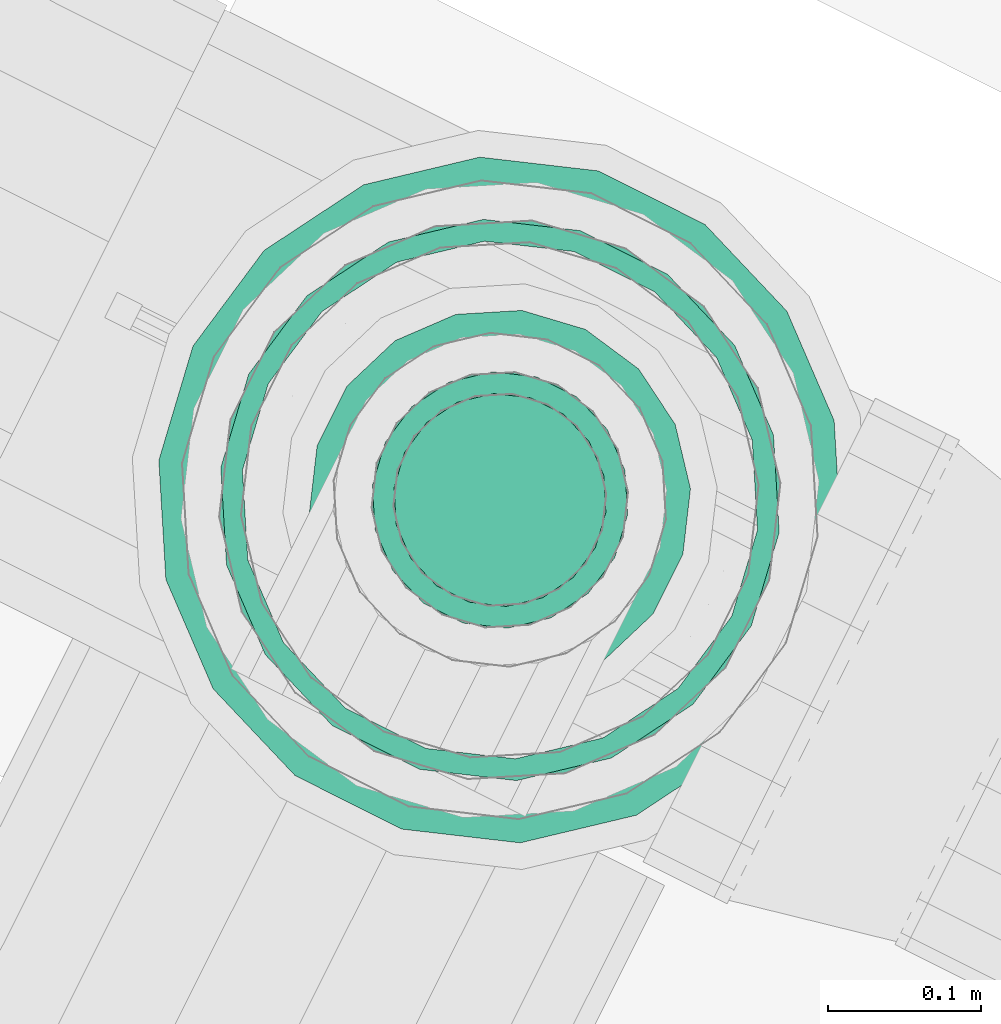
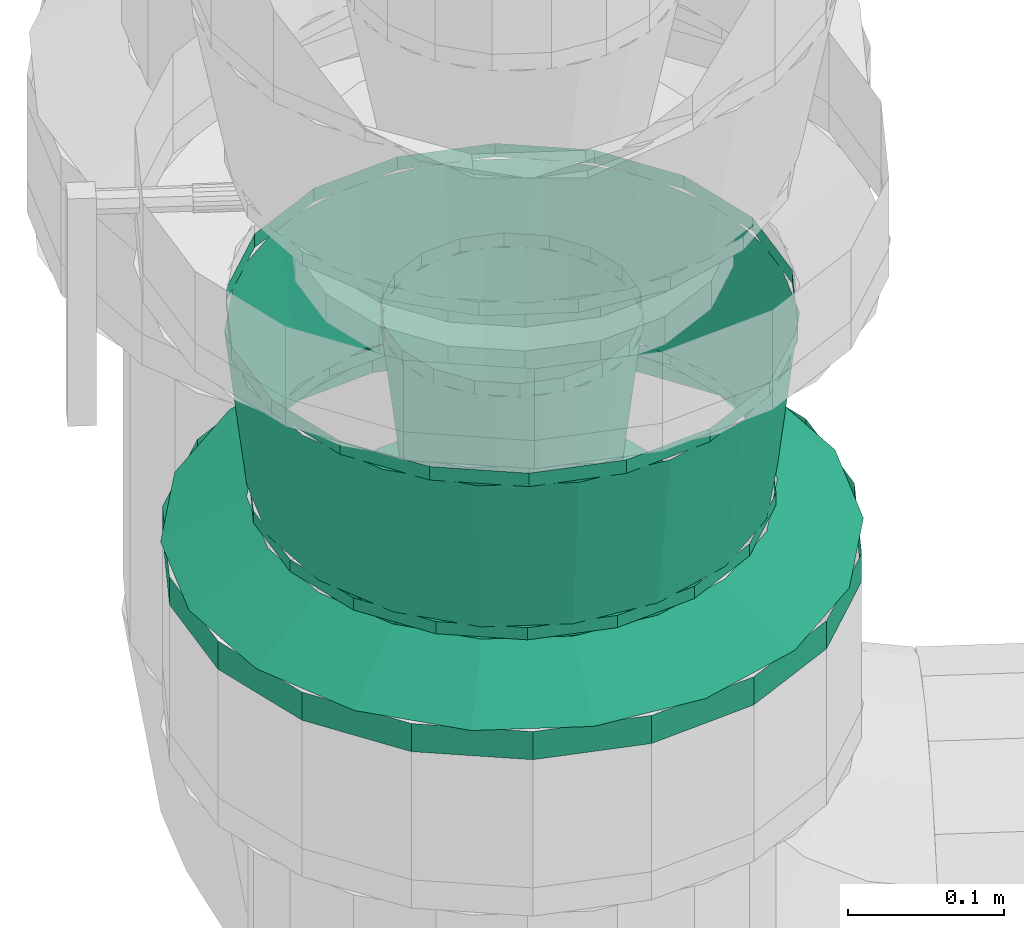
# One storey, part 118 of 152: 2 flow fittings.
"""IFC2X3 building model written with IfcOpenShell, lengths in metres."""

from ifc_helpers import new_model, si_unit, derived_unit, direction, frame, origin, place, context, subcontext, project, spatial, face_set, surface_model, source, transform, mapped, material, type_object, type_shapes, element, save


model = new_model("IFC2X3")

# Units and contexts
model_context = context("Model", 3, precision=5.2338327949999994e-05, world=origin(), true_north=direction((0.0, 1.0)))
body_context = subcontext(model_context, "Body", "Model", "MODEL_VIEW")
ifc_project = project(units=[si_unit("LENGTHUNIT", "METRE"), si_unit("AREAUNIT", "SQUARE_METRE"), si_unit("VOLUMEUNIT", "CUBIC_METRE"), si_unit("MASSUNIT", "GRAM", prefix="KILO"), si_unit("PLANEANGLEUNIT", "RADIAN"), derived_unit("THERMALTRANSMITTANCEUNIT", [(si_unit("MASSUNIT", "GRAM", prefix="KILO"), 1), (si_unit("THERMODYNAMICTEMPERATUREUNIT", "KELVIN"), -1), (si_unit("TIMEUNIT", "SECOND"), -3)])], contexts=[model_context])

# Site, building, storey
site_placement = place(None, frame((0.0, 0.0, 0.0), z_axis=(0.0, 0.0, 1.0), x_axis=(0.8939966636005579, -0.4480736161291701, 0.0)))
site = spatial("IfcSite", under=ifc_project, at=site_placement, Name="Default", CompositionType="ELEMENT")
building_placement = place(site_placement, origin())
building = spatial("IfcBuilding", under=site, at=building_placement, CompositionType="ELEMENT")
storey_placement = place(building_placement, frame((0.0, 0.0, 2.7499999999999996)))
storey = spatial("IfcBuildingStorey", under=building, at=storey_placement, Name="1. Obergeschoss", CompositionType="ELEMENT", Elevation=2.7499999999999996)

# Flow fittings
ifc_material = material(Name="IfcSurfaceStyle #9317")
distribution_element_type_1 = type_object("IfcDistributionElementType", Name="Flansch 234258:Flansch 234258", material=ifc_material)
shared_shape_1 = source(origin(), body_context, "Body", "SurfaceModel", [
    surface_model("IfcFaceBasedSurfaceModel", [(9.625770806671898, 7.202208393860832, 4.27507198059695), (9.668523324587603, 7.209746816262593, 4.27507198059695), (9.668523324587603, 7.209746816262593, 4.297071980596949), (9.625770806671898, 7.202208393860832, 4.297071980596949), (9.706119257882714, 7.231452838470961, 4.27507198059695), (9.706119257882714, 7.231452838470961, 4.297071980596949), (9.734023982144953, 7.264708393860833, 4.27507198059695), (9.734023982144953, 7.264708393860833, 4.297071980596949), (9.748871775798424, 7.305502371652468, 4.27507198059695), (9.748871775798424, 7.305502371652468, 4.297071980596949), (9.748871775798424, 7.3489144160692, 4.27507198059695), (9.748871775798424, 7.3489144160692, 4.297071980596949), (9.734023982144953, 7.3897083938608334, 4.27507198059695), (9.734023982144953, 7.3897083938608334, 4.297071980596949), (9.706119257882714, 7.422963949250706, 4.27507198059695), (9.706119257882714, 7.422963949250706, 4.297071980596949), (9.668523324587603, 7.4446699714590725, 4.27507198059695), (9.668523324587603, 7.4446699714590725, 4.297071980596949), (9.625770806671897, 7.452208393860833, 4.27507198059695), (9.625770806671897, 7.452208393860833, 4.297071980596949), (9.583018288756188, 7.444669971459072, 4.27507198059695), (9.583018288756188, 7.444669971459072, 4.297071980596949), (9.54542235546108, 7.422963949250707, 4.27507198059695), (9.54542235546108, 7.422963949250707, 4.297071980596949), (9.517517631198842, 7.3897083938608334, 4.27507198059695), (9.517517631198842, 7.3897083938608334, 4.297071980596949), (9.50266983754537, 7.348914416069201, 4.27507198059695), (9.50266983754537, 7.348914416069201, 4.297071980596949), (9.50266983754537, 7.305502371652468, 4.27507198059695), (9.50266983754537, 7.305502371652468, 4.297071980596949), (9.517517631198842, 7.264708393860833, 4.27507198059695), (9.517517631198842, 7.264708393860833, 4.297071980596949), (9.54542235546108, 7.231452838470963, 4.27507198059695), (9.54542235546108, 7.231452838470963, 4.297071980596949), (9.583018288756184, 7.209746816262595, 4.27507198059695), (9.583018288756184, 7.209746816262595, 4.297071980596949), (9.625770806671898, 7.3272083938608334, 4.297071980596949), (9.703770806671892, 7.3272083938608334, 4.297071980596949), (9.699066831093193, 7.353885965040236, 4.297071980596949), (9.69140833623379, 7.351098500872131, 4.33007198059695), (9.695620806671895, 7.327208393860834, 4.33007198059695), (9.685522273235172, 7.377345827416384, 4.297071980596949), (9.679279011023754, 7.372107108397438, 4.33007198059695), (9.664770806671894, 7.394758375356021, 4.297071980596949), (9.660695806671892, 7.387700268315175, 4.33007198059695), (9.639315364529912, 7.404023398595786, 4.297071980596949), (9.637900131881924, 7.395997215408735, 4.33007198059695), (9.612226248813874, 7.404023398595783, 4.297071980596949), (9.613641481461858, 7.395997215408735, 4.33007198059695), (9.586770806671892, 7.394758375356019, 4.297071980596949), (9.590845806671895, 7.387700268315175, 4.33007198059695), (9.566019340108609, 7.377345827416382, 4.297071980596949), (9.572262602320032, 7.372107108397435, 4.33007198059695), (9.552474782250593, 7.3538859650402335, 4.297071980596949), (9.56013327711, 7.351098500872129, 4.33007198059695), (9.547770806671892, 7.327208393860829, 4.297071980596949), (9.555920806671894, 7.327208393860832, 4.33007198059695), (9.552474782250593, 7.300530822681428, 4.297071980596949), (9.560133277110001, 7.3033182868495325, 4.33007198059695), (9.566019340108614, 7.277070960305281, 4.297071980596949), (9.572262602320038, 7.282309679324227, 4.33007198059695), (9.586770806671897, 7.259658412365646, 4.297071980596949), (9.590845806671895, 7.266716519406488, 4.33007198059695), (9.612226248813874, 7.250393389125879, 4.297071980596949), (9.61364148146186, 7.258419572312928, 4.33007198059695), (9.639315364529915, 7.250393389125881, 4.297071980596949), (9.63790013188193, 7.25841957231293, 4.33007198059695), (9.664770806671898, 7.2596584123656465, 4.297071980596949), (9.660695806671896, 7.266716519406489, 4.33007198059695), (9.685522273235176, 7.277070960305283, 4.297071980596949), (9.679279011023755, 7.2823096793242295, 4.33007198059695), (9.699066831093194, 7.3005308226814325, 4.297071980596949), (9.691408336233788, 7.303318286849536, 4.33007198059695), (9.625770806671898, 7.102208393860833, 4.27507198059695), (9.702725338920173, 7.115777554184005, 4.27507198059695), (9.702725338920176, 7.115777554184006, 4.297071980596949), (9.6257708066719, 7.102208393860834, 4.297071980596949), (9.770398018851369, 7.154848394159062, 4.27507198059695), (9.77039801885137, 7.154848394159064, 4.297071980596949), (9.8206265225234, 7.214708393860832, 4.27507198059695), (9.820626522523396, 7.214708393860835, 4.297071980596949), (9.847352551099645, 7.288137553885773, 4.27507198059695), (9.84735255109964, 7.288137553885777, 4.297071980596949), (9.847352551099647, 7.3662792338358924, 4.27507198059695), (9.847352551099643, 7.366279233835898, 4.297071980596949), (9.820626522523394, 7.439708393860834, 4.27507198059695), (9.82062652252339, 7.439708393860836, 4.297071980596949), (9.770398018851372, 7.499568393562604, 4.27507198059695), (9.770398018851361, 7.4995683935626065, 4.297071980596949), (9.702725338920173, 7.538639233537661, 4.27507198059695), (9.702725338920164, 7.538639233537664, 4.297071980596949), (9.625770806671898, 7.552208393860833, 4.27507198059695), (9.625770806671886, 7.552208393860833, 4.297071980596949), (9.548816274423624, 7.538639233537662, 4.27507198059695), (9.548816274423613, 7.53863923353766, 4.297071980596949), (9.481143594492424, 7.499568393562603, 4.27507198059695), (9.481143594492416, 7.499568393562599, 4.297071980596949), (9.430915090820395, 7.439708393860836, 4.27507198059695), (9.43091509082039, 7.439708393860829, 4.297071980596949), (9.404189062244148, 7.366279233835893, 4.27507198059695), (9.404189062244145, 7.366279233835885, 4.297071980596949), (9.404189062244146, 7.2881375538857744, 4.27507198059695), (9.404189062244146, 7.288137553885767, 4.297071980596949), (9.430915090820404, 7.2147083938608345, 4.27507198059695), (9.430915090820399, 7.2147083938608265, 4.297071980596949), (9.481143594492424, 7.154848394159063, 4.27507198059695), (9.481143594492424, 7.154848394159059, 4.297071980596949), (9.548816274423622, 7.115777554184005, 4.27507198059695), (9.548816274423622, 7.115777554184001, 4.297071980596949), (9.850770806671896, 7.327208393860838, 4.297071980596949), (9.837201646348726, 7.404162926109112, 4.297071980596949), (9.785377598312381, 7.3853005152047, 4.330071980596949), (9.795620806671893, 7.327208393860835, 4.33007198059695), (9.79813080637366, 7.471835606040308, 4.297071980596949), (9.75588345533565, 7.436385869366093, 4.33007198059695), (9.738270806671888, 7.522064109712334, 4.297071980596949), (9.710695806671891, 7.474302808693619, 4.33007198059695), (9.664841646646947, 7.548790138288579, 4.297071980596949), (9.65526494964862, 7.494477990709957, 4.330071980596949), (9.58669996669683, 7.548790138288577, 4.297071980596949), (9.596276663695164, 7.494477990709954, 4.33007198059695), (9.513270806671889, 7.522064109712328, 4.297071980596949), (9.540845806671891, 7.474302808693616, 4.33007198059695), (9.453410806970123, 7.471835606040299, 4.297071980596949), (9.495658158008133, 7.436385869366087, 4.330071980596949), (9.41433996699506, 7.404162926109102, 4.29707198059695), (9.46616401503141, 7.385300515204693, 4.33007198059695), (9.400770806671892, 7.327208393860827, 4.297071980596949), (9.455920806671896, 7.327208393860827, 4.330071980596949), (9.414339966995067, 7.250253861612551, 4.297071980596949), (9.466164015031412, 7.269116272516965, 4.330071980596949), (9.45341080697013, 7.182581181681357, 4.297071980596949), (9.495658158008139, 7.21803091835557, 4.330071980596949), (9.5132708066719, 7.1323526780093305, 4.29707198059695), (9.540845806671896, 7.180113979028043, 4.33007198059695), (9.586699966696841, 7.105626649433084, 4.297071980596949), (9.59627666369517, 7.159938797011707, 4.33007198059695), (9.664841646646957, 7.105626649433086, 4.297071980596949), (9.655264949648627, 7.15993879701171, 4.33007198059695), (9.738270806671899, 7.132352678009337, 4.29707198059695), (9.710695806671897, 7.1801139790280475, 4.33007198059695), (9.798130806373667, 7.182581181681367, 4.297071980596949), (9.755883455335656, 7.218030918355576, 4.330071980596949), (9.837201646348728, 7.250253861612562, 4.297071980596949), (9.785377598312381, 7.269116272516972, 4.330071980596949)], [face_set([[[0, 1, 2, 3]], [[1, 4, 5, 2]], [[4, 6, 7, 5]], [[6, 8, 9, 7]], [[8, 10, 11, 9]], [[10, 12, 13, 11]], [[12, 14, 15, 13]], [[14, 16, 17, 15]], [[16, 18, 19, 17]], [[18, 20, 21, 19]], [[20, 22, 23, 21]], [[22, 24, 25, 23]], [[24, 26, 27, 25]], [[26, 28, 29, 27]], [[28, 30, 31, 29]], [[30, 32, 33, 31]], [[32, 34, 35, 33]], [[34, 0, 3, 35]], [[36, 35, 3]], [[36, 33, 35]], [[36, 31, 33]], [[36, 29, 31]], [[36, 27, 29]], [[36, 25, 27]], [[36, 23, 25]], [[36, 21, 23]], [[36, 19, 21]], [[36, 17, 19]], [[36, 15, 17]], [[36, 13, 15]], [[36, 11, 13]], [[36, 9, 11]], [[36, 7, 9]], [[36, 5, 7]], [[36, 2, 5]], [[36, 3, 2]], [[37, 38, 39, 40]], [[38, 41, 42, 39]], [[41, 43, 44, 42]], [[43, 45, 46, 44]], [[45, 47, 48, 46]], [[47, 49, 50, 48]], [[49, 51, 52, 50]], [[51, 53, 54, 52]], [[53, 55, 56, 54]], [[55, 57, 58, 56]], [[57, 59, 60, 58]], [[59, 61, 62, 60]], [[61, 63, 64, 62]], [[63, 65, 66, 64]], [[65, 67, 68, 66]], [[67, 69, 70, 68]], [[69, 71, 72, 70]], [[71, 37, 40, 72]], [[73, 74, 75, 76]], [[74, 77, 78, 75]], [[77, 79, 80, 78]], [[79, 81, 82, 80]], [[81, 83, 84, 82]], [[83, 85, 86, 84]], [[85, 87, 88, 86]], [[87, 89, 90, 88]], [[89, 91, 92, 90]], [[91, 93, 94, 92]], [[93, 95, 96, 94]], [[95, 97, 98, 96]], [[97, 99, 100, 98]], [[99, 101, 102, 100]], [[101, 103, 104, 102]], [[103, 105, 106, 104]], [[105, 107, 108, 106]], [[107, 73, 76, 108]], [[109, 110, 111, 112]], [[110, 113, 114, 111]], [[113, 115, 116, 114]], [[115, 117, 118, 116]], [[117, 119, 120, 118]], [[119, 121, 122, 120]], [[121, 123, 124, 122]], [[123, 125, 126, 124]], [[125, 127, 128, 126]], [[127, 129, 130, 128]], [[129, 131, 132, 130]], [[131, 133, 134, 132]], [[133, 135, 136, 134]], [[135, 137, 138, 136]], [[137, 139, 140, 138]], [[139, 141, 142, 140]], [[141, 143, 144, 142]], [[143, 109, 112, 144]]])]),
])
type_shapes(distribution_element_type_1, [shared_shape_1])
flow_fitting_1_placement = place(storey_placement, frame((0.0, 0.0, -2.7499999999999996)))
element("IfcFlowFitting", 1, at=flow_fitting_1_placement, inside=storey, type_object=distribution_element_type_1, material=ifc_material, Name="Flansch", ObjectType="Flansch", context=body_context, shape_type="MappedRepresentation", body=[
    mapped(shared_shape_1, transform((0.0, 0.0, 0.0), scale=1.0)),
])
distribution_element_type_2 = type_object("IfcDistributionElementType", Name="Übergangsstück 234729:Übergangsstück 234729", material=ifc_material)
shared_shape_2 = source(origin(), body_context, "Body", "SurfaceModel", [
    surface_model("IfcFaceBasedSurfaceModel", [(9.625770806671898, 7.397058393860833, 4.3300719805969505), (9.601880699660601, 7.392845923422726, 4.3300719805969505), (9.601880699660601, 7.392845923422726, 4.3396011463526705), (9.625770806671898, 7.397058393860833, 4.3396011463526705), (9.580872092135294, 7.38071659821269, 4.3300719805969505), (9.580872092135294, 7.38071659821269, 4.3396011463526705), (9.565278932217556, 7.36213339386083, 4.3300719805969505), (9.565278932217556, 7.36213339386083, 4.3396011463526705), (9.556981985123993, 7.339337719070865, 4.3300719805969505), (9.556981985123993, 7.339337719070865, 4.3396011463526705), (9.556981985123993, 7.315079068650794, 4.3300719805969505), (9.556981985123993, 7.315079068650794, 4.3396011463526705), (9.565278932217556, 7.29228339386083, 4.3300719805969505), (9.565278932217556, 7.29228339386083, 4.3396011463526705), (9.580872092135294, 7.273700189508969, 4.3300719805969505), (9.580872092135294, 7.273700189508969, 4.3396011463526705), (9.601880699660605, 7.261570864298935, 4.3300719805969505), (9.601880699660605, 7.261570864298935, 4.3396011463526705), (9.625770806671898, 7.257358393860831, 4.3300719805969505), (9.625770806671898, 7.257358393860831, 4.3396011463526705), (9.649660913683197, 7.261570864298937, 4.33007198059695), (9.6496609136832, 7.261570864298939, 4.3396011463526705), (9.670669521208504, 7.273700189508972, 4.3300719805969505), (9.670669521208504, 7.273700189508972, 4.3396011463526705), (9.68626268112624, 7.292283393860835, 4.3300719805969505), (9.68626268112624, 7.292283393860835, 4.3396011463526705), (9.694559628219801, 7.3150790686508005, 4.3300719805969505), (9.694559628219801, 7.3150790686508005, 4.3396011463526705), (9.6945596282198, 7.339337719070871, 4.3300719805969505), (9.6945596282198, 7.339337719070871, 4.3396011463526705), (9.686262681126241, 7.362133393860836, 4.3300719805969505), (9.686262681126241, 7.362133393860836, 4.3396011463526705), (9.670669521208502, 7.380716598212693, 4.3300719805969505), (9.670669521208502, 7.380716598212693, 4.3396011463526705), (9.649660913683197, 7.392845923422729, 4.3300719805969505), (9.649660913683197, 7.392845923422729, 4.3396011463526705), (9.5559208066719, 7.327208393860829, 4.3396011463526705), (9.560133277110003, 7.303318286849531, 4.3396011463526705), (9.546695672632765, 7.298427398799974, 4.459612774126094), (9.541620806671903, 7.327208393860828, 4.459612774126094), (9.57226260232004, 7.282309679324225, 4.3396011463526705), (9.561308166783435, 7.273117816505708, 4.459612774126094), (9.590845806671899, 7.2667165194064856, 4.3396011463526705), (9.583695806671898, 7.254332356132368, 4.459612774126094), (9.613641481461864, 7.258419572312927, 4.3396011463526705), (9.611158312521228, 7.244336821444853, 4.459612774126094), (9.637900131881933, 7.25841957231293, 4.3396011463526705), (9.640383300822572, 7.244336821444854, 4.459612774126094), (9.6606958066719, 7.266716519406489, 4.3396011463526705), (9.667845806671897, 7.254332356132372, 4.459612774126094), (9.67927901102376, 7.282309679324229, 4.3396011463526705), (9.69023344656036, 7.273117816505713, 4.459612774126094), (9.691408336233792, 7.303318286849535, 4.3396011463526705), (9.704845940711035, 7.29842739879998, 4.459612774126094), (9.695620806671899, 7.327208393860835, 4.3396011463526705), (9.709920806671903, 7.327208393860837, 4.459612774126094), (9.691408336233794, 7.351098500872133, 4.3396011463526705), (9.704845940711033, 7.355989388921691, 4.459612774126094), (9.67927901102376, 7.372107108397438, 4.3396011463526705), (9.690233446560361, 7.381298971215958, 4.459612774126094), (9.660695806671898, 7.387700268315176, 4.3396011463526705), (9.667845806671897, 7.400084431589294, 4.459612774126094), (9.637900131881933, 7.395997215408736, 4.3396011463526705), (9.64038330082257, 7.410079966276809, 4.459612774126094), (9.613641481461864, 7.395997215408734, 4.3396011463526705), (9.611158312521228, 7.4100799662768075, 4.459612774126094), (9.590845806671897, 7.387700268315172, 4.3396011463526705), (9.5836958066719, 7.400084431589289, 4.459612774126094), (9.57226260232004, 7.372107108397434, 4.3396011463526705), (9.561308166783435, 7.381298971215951, 4.459612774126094), (9.560133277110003, 7.351098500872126, 4.3396011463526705), (9.546695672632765, 7.355989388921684, 4.459612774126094), (9.6257708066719, 7.411358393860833, 4.459612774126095), (9.596989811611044, 7.406283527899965, 4.459612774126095), (9.596989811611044, 7.406283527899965, 4.47007198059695), (9.6257708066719, 7.411358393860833, 4.47007198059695), (9.571680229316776, 7.391671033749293, 4.459612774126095), (9.571680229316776, 7.391671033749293, 4.47007198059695), (9.55289476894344, 7.36928339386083, 4.459612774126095), (9.55289476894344, 7.36928339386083, 4.47007198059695), (9.542899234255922, 7.3418208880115, 4.459612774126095), (9.542899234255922, 7.3418208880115, 4.47007198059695), (9.542899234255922, 7.312595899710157, 4.459612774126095), (9.542899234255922, 7.312595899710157, 4.47007198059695), (9.55289476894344, 7.285133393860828, 4.459612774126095), (9.55289476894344, 7.285133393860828, 4.47007198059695), (9.571680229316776, 7.262745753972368, 4.459612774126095), (9.571680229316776, 7.262745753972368, 4.47007198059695), (9.596989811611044, 7.248133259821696, 4.459612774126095), (9.596989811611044, 7.248133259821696, 4.47007198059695), (9.625770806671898, 7.243058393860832, 4.459612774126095), (9.625770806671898, 7.243058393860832, 4.47007198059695), (9.654551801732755, 7.2481332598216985, 4.459612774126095), (9.654551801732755, 7.2481332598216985, 4.47007198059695), (9.67986138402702, 7.262745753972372, 4.459612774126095), (9.67986138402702, 7.262745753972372, 4.47007198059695), (9.69864684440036, 7.285133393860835, 4.459612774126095), (9.69864684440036, 7.285133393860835, 4.47007198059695), (9.708642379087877, 7.312595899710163, 4.459612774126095), (9.708642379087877, 7.312595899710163, 4.47007198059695), (9.708642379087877, 7.341820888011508, 4.459612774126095), (9.708642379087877, 7.341820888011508, 4.47007198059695), (9.698646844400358, 7.369283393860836, 4.459612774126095), (9.698646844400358, 7.369283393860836, 4.47007198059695), (9.67986138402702, 7.3916710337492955, 4.459612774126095), (9.67986138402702, 7.3916710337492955, 4.47007198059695), (9.654551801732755, 7.406283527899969, 4.459612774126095), (9.654551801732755, 7.406283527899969, 4.47007198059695), (9.625770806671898, 7.497058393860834, 4.3300719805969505), (9.567678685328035, 7.4868151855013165, 4.3300719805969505), (9.567678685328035, 7.4868151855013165, 4.3396011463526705), (9.625770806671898, 7.497058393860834, 4.3396011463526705), (9.516593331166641, 7.457321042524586, 4.3300719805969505), (9.516593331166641, 7.457321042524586, 4.3396011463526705), (9.478676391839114, 7.4121333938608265, 4.3300719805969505), (9.478676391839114, 7.4121333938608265, 4.3396011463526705), (9.458501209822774, 7.356702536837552, 4.3300719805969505), (9.458501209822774, 7.356702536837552, 4.3396011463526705), (9.458501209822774, 7.297714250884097, 4.3300719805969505), (9.458501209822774, 7.297714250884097, 4.3396011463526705), (9.478676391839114, 7.242283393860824, 4.3300719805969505), (9.478676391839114, 7.242283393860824, 4.3396011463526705), (9.516593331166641, 7.197095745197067, 4.3300719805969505), (9.516593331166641, 7.197095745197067, 4.3396011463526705), (9.567678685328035, 7.1676016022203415, 4.3300719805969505), (9.567678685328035, 7.1676016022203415, 4.3396011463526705), (9.625770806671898, 7.1573583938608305, 4.3300719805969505), (9.625770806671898, 7.1573583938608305, 4.3396011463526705), (9.683862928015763, 7.167601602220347, 4.3300719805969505), (9.683862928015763, 7.167601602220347, 4.3396011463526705), (9.73494828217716, 7.1970957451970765, 4.3300719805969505), (9.73494828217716, 7.1970957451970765, 4.3396011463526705), (9.772865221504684, 7.242283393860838, 4.3300719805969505), (9.772865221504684, 7.242283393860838, 4.3396011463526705), (9.79304040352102, 7.29771425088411, 4.3300719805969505), (9.79304040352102, 7.29771425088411, 4.3396011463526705), (9.793040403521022, 7.356702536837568, 4.3300719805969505), (9.793040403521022, 7.356702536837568, 4.3396011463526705), (9.772865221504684, 7.412133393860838, 4.3300719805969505), (9.772865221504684, 7.412133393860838, 4.3396011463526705), (9.734948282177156, 7.457321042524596, 4.3300719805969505), (9.734948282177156, 7.457321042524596, 4.3396011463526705), (9.683862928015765, 7.486815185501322, 4.3300719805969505), (9.683862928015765, 7.486815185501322, 4.3396011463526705), (9.4559208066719, 7.327208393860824, 4.3396011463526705), (9.466164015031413, 7.2691162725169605, 4.3396011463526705), (9.452726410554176, 7.264225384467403, 4.459612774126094), (9.4416208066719, 7.327208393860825, 4.459612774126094), (9.495658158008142, 7.218030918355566, 4.3396011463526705), (9.48470372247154, 7.208839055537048, 4.459612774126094), (9.540845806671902, 7.180113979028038, 4.3396011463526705), (9.5336958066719, 7.167729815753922, 4.459612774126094), (9.596276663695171, 7.159938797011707, 4.3396011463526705), (9.593793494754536, 7.145856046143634, 4.459612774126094), (9.655264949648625, 7.159938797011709, 4.3396011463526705), (9.657748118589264, 7.145856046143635, 4.459612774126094), (9.710695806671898, 7.180113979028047, 4.3396011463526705), (9.717845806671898, 7.16772981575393, 4.459612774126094), (9.755883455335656, 7.218030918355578, 4.3396011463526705), (9.766837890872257, 7.20883905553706, 4.459612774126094), (9.785377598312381, 7.269116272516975, 4.3396011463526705), (9.798815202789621, 7.264225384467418, 4.459612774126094), (9.795620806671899, 7.327208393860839, 4.3396011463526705), (9.809920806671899, 7.32720839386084, 4.459612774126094), (9.785377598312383, 7.385300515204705, 4.3396011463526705), (9.798815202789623, 7.3901914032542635, 4.459612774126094), (9.755883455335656, 7.436385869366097, 4.3396011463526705), (9.766837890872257, 7.4455777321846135, 4.459612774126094), (9.710695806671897, 7.474302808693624, 4.3396011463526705), (9.717845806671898, 7.486686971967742, 4.459612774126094), (9.655264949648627, 7.494477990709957, 4.3396011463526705), (9.657748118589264, 7.508560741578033, 4.459612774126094), (9.596276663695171, 7.494477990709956, 4.3396011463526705), (9.593793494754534, 7.508560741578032, 4.459612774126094), (9.540845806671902, 7.4743028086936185, 4.3396011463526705), (9.533695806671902, 7.486686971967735, 4.459612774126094), (9.495658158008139, 7.436385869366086, 4.3396011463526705), (9.48470372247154, 7.445577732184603, 4.459612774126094), (9.466164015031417, 7.38530051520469, 4.3396011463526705), (9.452726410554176, 7.390191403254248, 4.459612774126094), (9.625770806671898, 7.511358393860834, 4.459612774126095), (9.562787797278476, 7.500252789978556, 4.459612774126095), (9.562787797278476, 7.500252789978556, 4.47007198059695), (9.625770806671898, 7.511358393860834, 4.47007198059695), (9.507401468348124, 7.4682754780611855, 4.459612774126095), (9.507401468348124, 7.4682754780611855, 4.47007198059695), (9.466292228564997, 7.419283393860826, 4.459612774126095), (9.466292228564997, 7.419283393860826, 4.47007198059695), (9.444418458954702, 7.359185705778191, 4.459612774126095), (9.444418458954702, 7.359185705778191, 4.47007198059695), (9.444418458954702, 7.29523108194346, 4.459612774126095), (9.444418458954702, 7.29523108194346, 4.47007198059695), (9.466292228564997, 7.235133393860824, 4.459612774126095), (9.466292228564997, 7.235133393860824, 4.47007198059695), (9.507401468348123, 7.186141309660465, 4.459612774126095), (9.507401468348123, 7.186141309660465, 4.47007198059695), (9.562787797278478, 7.154163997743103, 4.459612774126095), (9.562787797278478, 7.154163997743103, 4.47007198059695), (9.625770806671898, 7.143058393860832, 4.459612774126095), (9.625770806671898, 7.143058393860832, 4.47007198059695), (9.688753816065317, 7.154163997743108, 4.459612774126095), (9.688753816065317, 7.154163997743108, 4.47007198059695), (9.744140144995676, 7.186141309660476, 4.459612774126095), (9.744140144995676, 7.186141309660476, 4.47007198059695), (9.785249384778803, 7.235133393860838, 4.459612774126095), (9.785249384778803, 7.235133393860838, 4.47007198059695), (9.807123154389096, 7.295231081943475, 4.459612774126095), (9.807123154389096, 7.295231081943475, 4.47007198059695), (9.807123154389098, 7.359185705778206, 4.459612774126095), (9.807123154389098, 7.359185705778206, 4.47007198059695), (9.785249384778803, 7.41928339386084, 4.459612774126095), (9.785249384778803, 7.41928339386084, 4.47007198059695), (9.744140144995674, 7.468275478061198, 4.459612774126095), (9.744140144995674, 7.468275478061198, 4.47007198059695), (9.688753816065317, 7.500252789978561, 4.459612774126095), (9.688753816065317, 7.500252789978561, 4.47007198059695)], [face_set([[[0, 1, 2, 3]], [[1, 4, 5, 2]], [[4, 6, 7, 5]], [[6, 8, 9, 7]], [[8, 10, 11, 9]], [[10, 12, 13, 11]], [[12, 14, 15, 13]], [[14, 16, 17, 15]], [[16, 18, 19, 17]], [[18, 20, 21, 19]], [[20, 22, 23, 21]], [[22, 24, 25, 23]], [[24, 26, 27, 25]], [[26, 28, 29, 27]], [[28, 30, 31, 29]], [[30, 32, 33, 31]], [[32, 34, 35, 33]], [[34, 0, 3, 35]], [[36, 37, 38, 39]], [[37, 40, 41, 38]], [[40, 42, 43, 41]], [[42, 44, 45, 43]], [[44, 46, 47, 45]], [[46, 48, 49, 47]], [[48, 50, 51, 49]], [[50, 52, 53, 51]], [[52, 54, 55, 53]], [[54, 56, 57, 55]], [[56, 58, 59, 57]], [[58, 60, 61, 59]], [[60, 62, 63, 61]], [[62, 64, 65, 63]], [[64, 66, 67, 65]], [[66, 68, 69, 67]], [[68, 70, 71, 69]], [[70, 36, 39, 71]], [[72, 73, 74, 75]], [[73, 76, 77, 74]], [[76, 78, 79, 77]], [[78, 80, 81, 79]], [[80, 82, 83, 81]], [[82, 84, 85, 83]], [[84, 86, 87, 85]], [[86, 88, 89, 87]], [[88, 90, 91, 89]], [[90, 92, 93, 91]], [[92, 94, 95, 93]], [[94, 96, 97, 95]], [[96, 98, 99, 97]], [[98, 100, 101, 99]], [[100, 102, 103, 101]], [[102, 104, 105, 103]], [[104, 106, 107, 105]], [[106, 72, 75, 107]], [[108, 109, 110, 111]], [[109, 112, 113, 110]], [[112, 114, 115, 113]], [[114, 116, 117, 115]], [[116, 118, 119, 117]], [[118, 120, 121, 119]], [[120, 122, 123, 121]], [[122, 124, 125, 123]], [[124, 126, 127, 125]], [[126, 128, 129, 127]], [[128, 130, 131, 129]], [[130, 132, 133, 131]], [[132, 134, 135, 133]], [[134, 136, 137, 135]], [[136, 138, 139, 137]], [[138, 140, 141, 139]], [[140, 142, 143, 141]], [[142, 108, 111, 143]], [[144, 145, 146, 147]], [[145, 148, 149, 146]], [[148, 150, 151, 149]], [[150, 152, 153, 151]], [[152, 154, 155, 153]], [[154, 156, 157, 155]], [[156, 158, 159, 157]], [[158, 160, 161, 159]], [[160, 162, 163, 161]], [[162, 164, 165, 163]], [[164, 166, 167, 165]], [[166, 168, 169, 167]], [[168, 170, 171, 169]], [[170, 172, 173, 171]], [[172, 174, 175, 173]], [[174, 176, 177, 175]], [[176, 178, 179, 177]], [[178, 144, 147, 179]], [[180, 181, 182, 183]], [[181, 184, 185, 182]], [[184, 186, 187, 185]], [[186, 188, 189, 187]], [[188, 190, 191, 189]], [[190, 192, 193, 191]], [[192, 194, 195, 193]], [[194, 196, 197, 195]], [[196, 198, 199, 197]], [[198, 200, 201, 199]], [[200, 202, 203, 201]], [[202, 204, 205, 203]], [[204, 206, 207, 205]], [[206, 208, 209, 207]], [[208, 210, 211, 209]], [[210, 212, 213, 211]], [[212, 214, 215, 213]], [[214, 180, 183, 215]]])]),
])
type_shapes(distribution_element_type_2, [shared_shape_2])
flow_fitting_2_placement = place(storey_placement, frame((0.0, 0.0, -2.7499999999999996)))
element("IfcFlowFitting", 2, at=flow_fitting_2_placement, inside=storey, type_object=distribution_element_type_2, material=ifc_material, Name="Übergangsstück", ObjectType="Übergangsstück", context=body_context, shape_type="MappedRepresentation", body=[
    mapped(shared_shape_2, transform((0.0, 0.0, 0.0), scale=1.0)),
])

save(model, "model.ifc")
